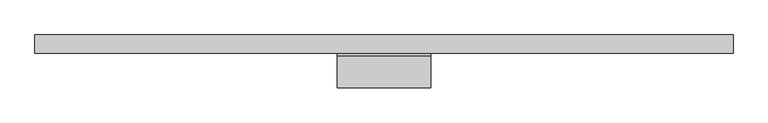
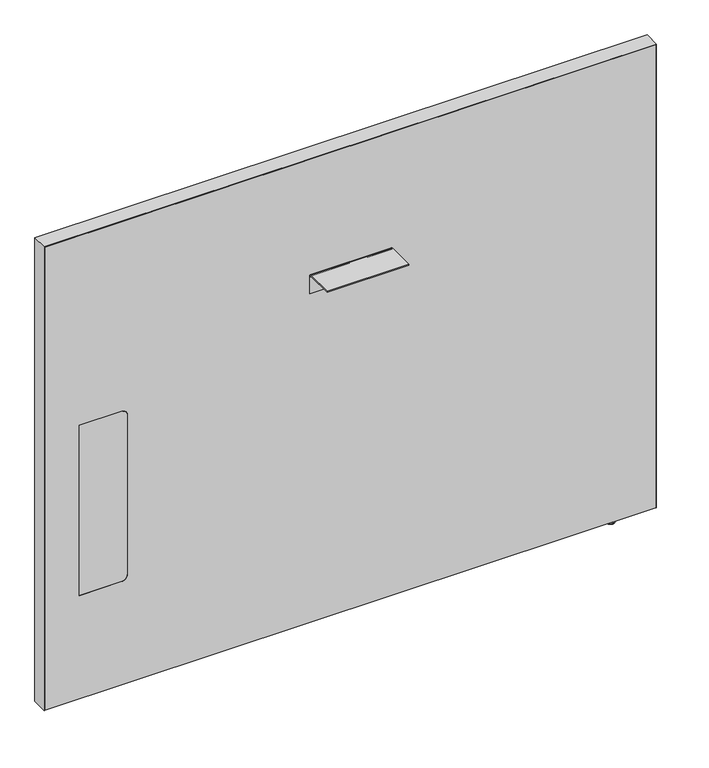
"""IFC4 building model written with IfcOpenShell, lengths in millimetres: furniture geometry, Steelcase - Answer Solution - Boundary Screen - Straight - Single Sided : 36H x 45W."""

from ifc_helpers import new_model, si_unit, point, frame, frame_2d, origin, place, context, project, spatial, polyline, circle_curve, ellipse_curve, trimmed, segment, composite_curve, outline, extrude, source, transform, mapped, element, save
from ifc_brep_helpers import plane_surface, cylinder_surface, revolved_surface, advanced_brep


def furniture_d07bc6ec(model_context):
    return source(origin(), model_context, "Body", "SolidModel", [
        extrude(outline(composite_curve([segment(polyline([(-86.8398151, 696.4680019), (-86.8398151, 698.5), (-34.9450855, 698.5)]), True, "CONTINUOUS"), segment(trimmed(circle_curve(frame_2d((-34.9450855, 693.2447477)), 5.2552523), [point((-34.9450855, 698.5))], [point((-29.6898332, 693.2447477))], False, "CARTESIAN"), True, "CONTINUOUS"), segment(polyline([(-29.6898332, 693.2447477), (-29.6898332, 660.4), (-31.7218162, 660.4), (-31.7218162, 693.0058743)]), True, "CONTINUOUS"), segment(trimmed(circle_curve(frame_2d((-35.1839438, 693.0058743)), 3.4621276), [point((-31.7218162, 693.0058743))], [point((-35.1839438, 696.4680019))], True, "CARTESIAN"), True, "CONTINUOUS"), segment(polyline([(-35.1839438, 696.4680019), (-86.8398151, 696.4680019)]), True, "CONTINUOUS")], self_intersect=False)), frame((-151.1808593, 0.0, 0.0), z_axis=(1.0, 0.0, 0.0), x_axis=(0.0, 1.0, 0.0)), (0.0, 0.0, 1.0), 152.4000969),
        advanced_brep(
        [(419.3286488, -23.7588726, 9.9059849), (419.3286488, -5.9309607, 9.9059849), (419.3286488, -14.8449166, 9.9059849), (419.3286488, -23.7588726, 2.9673238), (419.3286488, -5.9309607, 2.9673238), (419.3286488, -22.7915354, 2.9673238), (419.3286488, -6.8982978, 2.9673238), (419.3286488, -22.7915354, 1.6569081), (419.3286488, -6.8982978, 1.6569081), (419.3286488, -21.1346274, 0.0), (419.3286488, -8.5552059, 0.0), (419.3286488, -14.8449166, 0.0)],
        [
            (0, 1, circle_curve(frame((419.3286488, -14.8449166, 9.9059849), z_axis=(0.0, 0.0, 1.0), x_axis=(0.0, 1.0, 0.0)), 8.913956)),
            (1, 2),
            (2, 0),
            (1, 0, circle_curve(frame((419.3286488, -14.8449166, 9.9059849), z_axis=(0.0, 0.0, 1.0), x_axis=(0.0, 1.0, 0.0)), 8.913956)),
            (3, 4, circle_curve(frame((419.3286488, -14.8449166, 2.9673238), z_axis=(0.0, 0.0, 1.0), x_axis=(0.0, 1.0, 0.0)), 8.913956)),
            (4, 1),
            (0, 3),
            (4, 3, circle_curve(frame((419.3286488, -14.8449166, 2.9673238), z_axis=(0.0, 0.0, 1.0), x_axis=(0.0, 1.0, 0.0)), 8.913956)),
            (5, 6, circle_curve(frame((419.3286488, -14.8449166, 2.9673238), z_axis=(0.0, 0.0, 1.0), x_axis=(0.0, 1.0, 0.0)), 7.9466188)),
            (6, 4),
            (3, 5),
            (6, 5, circle_curve(frame((419.3286488, -14.8449166, 2.9673238), z_axis=(0.0, 0.0, 1.0), x_axis=(0.0, 1.0, 0.0)), 7.9466188)),
            (7, 8, circle_curve(frame((419.3286488, -14.8449166, 1.6569081), z_axis=(0.0, 0.0, 1.0), x_axis=(0.0, 1.0, 0.0)), 7.9466188)),
            (8, 6),
            (5, 7),
            (8, 7, circle_curve(frame((419.3286488, -14.8449166, 1.6569081), z_axis=(0.0, 0.0, 1.0), x_axis=(0.0, 1.0, 0.0)), 7.9466188)),
            (9, 10, circle_curve(frame((419.3286488, -14.8449166, 0.0), z_axis=(0.0, 0.0, 1.0), x_axis=(0.0, 1.0, 0.0)), 6.2897107)),
            (10, 8, circle_curve(frame((419.3286488, -8.5552059, 1.6569081), z_axis=(1.0, 0.0, 0.0), x_axis=(0.0, 1.0, 0.0)), 1.6569081)),
            (7, 9, circle_curve(frame((419.3286488, -21.1346274, 1.6569081), z_axis=(1.0, 0.0, 0.0), x_axis=(0.0, -1.0, 0.0)), 1.6569081)),
            (10, 9, circle_curve(frame((419.3286488, -14.8449166, 0.0), z_axis=(0.0, 0.0, 1.0), x_axis=(0.0, 1.0, 0.0)), 6.2897107)),
            (11, 10),
            (9, 11),
        ],
        [
            plane_surface(frame((419.3286488, -14.8449166, 9.9059849), z_axis=(0.0, 0.0, 1.0), x_axis=(0.0, 1.0, 0.0))),
            cylinder_surface(frame((419.3286488, -14.8449166, 9.9059849), z_axis=(0.0, 0.0, -1.0), x_axis=(0.0, 1.0, 0.0)), 8.913956),
            plane_surface(frame((419.3286488, -14.8449166, 2.9673238), z_axis=(0.0, 0.0, -1.0), x_axis=(0.0, 1.0, 0.0))),
            cylinder_surface(frame((419.3286488, -14.8449166, 9.9059849), z_axis=(0.0, 0.0, -1.0), x_axis=(0.0, 1.0, 0.0)), 7.9466188),
            revolved_surface(trimmed(ellipse_curve(frame((419.3286488, -8.5552059, 1.6569081), z_axis=(-1.0, 0.0, 0.0), x_axis=(0.0, 1.0, 0.0)), 1.6569081, 1.6569081), [point((419.3286488, -6.8982978, 1.6569081))], [point((419.3286488, -8.5552059, 0.0))], True, "CARTESIAN"), (419.3286488, -14.8449166, 9.9059849), (0.0, 0.0, -1.0)),
            plane_surface(frame((419.3286488, -14.8449166, 0.0), z_axis=(0.0, 0.0, -1.0), x_axis=(0.0, 1.0, 0.0))),
        ],
        [
            (0, [[1, 2, 3]]),
            (0, [[4, -3, -2]]),
            (1, [[5, 6, -1, 7]]),
            (1, [[8, -7, -4, -6]]),
            (2, [[9, 10, -5, 11]]),
            (2, [[12, -11, -8, -10]]),
            (3, [[13, 14, -9, 15]]),
            (3, [[16, -15, -12, -14]]),
            (4, [[17, 18, -13, 19]]),
            (4, [[20, -19, -16, -18]]),
            (5, [[21, -17, 22]]),
            (5, [[-22, -20, -21]]),
        ],
    ),
        advanced_brep(
        [(495.4780168, 0.0, 924.342118), (495.4780168, 0.0, 9.9059849), (-645.4902221, 0.0, 9.9059849), (-645.4902221, 0.0, 924.342118), (495.4780168, -29.6898332, 924.342118), (-645.4902221, -29.6898332, 924.342118), (-645.4902221, -29.6898332, 9.9059849), (495.4780168, -29.6898332, 9.9059849), (-501.1463873, -29.6898332, 549.6162029), (-490.9863873, -29.6898332, 539.4562029), (-490.9863873, -29.6898332, 223.9362137), (-501.1463873, -29.6898332, 213.7762137), (-580.800285, -29.6898332, 213.7762137), (-580.800285, -29.6898332, 549.6162029), (-580.800285, -29.0550397, 549.6162029), (-501.1463873, -29.0550397, 549.6162029), (-580.800285, -29.0550397, 213.7762137), (-501.1463873, -29.0550397, 213.7762137), (-490.9863873, -29.0550397, 223.9362137), (-490.9863873, -29.0550397, 539.4562029)],
        [
            (0, 1),
            (1, 2),
            (2, 3),
            (3, 0),
            (4, 5),
            (5, 6),
            (6, 7),
            (7, 4),
            (8, 9, circle_curve(frame((-501.1463873, -29.6898332, 539.4562029), z_axis=(0.0, 1.0, 0.0), x_axis=(0.0, 0.0, 1.0)), 10.16)),
            (9, 10),
            (10, 11, circle_curve(frame((-501.1463873, -29.6898332, 223.9362137), z_axis=(0.0, 1.0, 0.0), x_axis=(0.0, 0.0, 1.0)), 10.16)),
            (11, 12),
            (12, 13),
            (13, 8),
            (0, 4),
            (7, 1),
            (6, 2),
            (5, 3),
            (13, 14),
            (14, 15),
            (15, 8),
            (12, 16),
            (16, 14),
            (11, 17),
            (17, 16),
            (10, 18),
            (18, 17, circle_curve(frame((-501.1463873, -29.0550397, 223.9362137), z_axis=(0.0, 1.0, 0.0), x_axis=(0.0, 0.0, 1.0)), 10.16)),
            (9, 19),
            (19, 18),
            (15, 19, circle_curve(frame((-501.1463873, -29.0550397, 539.4562029), z_axis=(0.0, 1.0, 0.0), x_axis=(0.0, 0.0, 1.0)), 10.16)),
        ],
        [
            plane_surface(frame((495.4780168, 0.0, 924.342118), z_axis=(0.0, 1.0, 0.0), x_axis=(0.0, 0.0, -1.0))),
            plane_surface(frame((495.4780168, -29.6898332, 924.342118), z_axis=(0.0, -1.0, 0.0), x_axis=(0.0, 0.0, 1.0))),
            plane_surface(frame((495.4780168, 0.0, 924.342118), z_axis=(1.0, 0.0, 0.0), x_axis=(0.0, -1.0, 0.0))),
            plane_surface(frame((495.4780168, 0.0, 9.9059849), z_axis=(0.0, 0.0, -1.0), x_axis=(0.0, -1.0, 0.0))),
            plane_surface(frame((-645.4902221, 0.0, 9.9059849), z_axis=(-1.0, 0.0, 0.0), x_axis=(0.0, -1.0, 0.0))),
            plane_surface(frame((-645.4902221, 0.0, 924.342118), z_axis=(0.0, 0.0, 1.0), x_axis=(0.0, -1.0, 0.0))),
            plane_surface(frame((-501.1463873, 0.0, 549.6162029), z_axis=(0.0, 0.0, -1.0), x_axis=(0.0, -1.0, 0.0))),
            plane_surface(frame((-580.800285, 0.0, 549.6162029), z_axis=(1.0, 0.0, 0.0), x_axis=(0.0, -1.0, 0.0))),
            plane_surface(frame((-580.800285, 0.0, 213.7762137), z_axis=(0.0, 0.0, 1.0), x_axis=(0.0, -1.0, 0.0))),
            revolved_surface(polyline([(-501.1463873, -29.6898332, 234.0962137), (-501.1463873, -29.0550397, 234.0962137)]), (-501.1463873, -29.6898332, 223.9362137), (0.0, -1.0, 0.0)),
            plane_surface(frame((-490.9863873, 0.0, 223.9362137), z_axis=(-1.0, 0.0, 0.0), x_axis=(0.0, -1.0, 0.0))),
            revolved_surface(polyline([(-501.1463873, -29.6898332, 549.6162029), (-501.1463873, -29.0550397, 549.6162029)]), (-501.1463873, -29.6898332, 539.4562029), (0.0, -1.0, 0.0)),
            plane_surface(frame((-490.9863873, -29.0550397, 629.172953), z_axis=(0.0, -1.0, 0.0), x_axis=(0.0, 0.0, 1.0))),
        ],
        [
            (0, [[1, 2, 3, 4]]),
            (1, [[5, 6, 7, 8], [9, 10, 11, 12, 13, 14]]),
            (2, [[-1, 15, -8, 16]]),
            (3, [[-2, -16, -7, 17]]),
            (4, [[-3, -17, -6, 18]]),
            (5, [[-4, -18, -5, -15]]),
            (6, [[-14, 19, 20, 21]]),
            (7, [[-13, 22, 23, -19]]),
            (8, [[-12, 24, 25, -22]]),
            (9, [[-11, 26, 27, -24]]),
            (10, [[-10, 28, 29, -26]]),
            (11, [[-9, -21, 30, -28]]),
            (12, [[-20, -23, -25, -27, -29, -30]]),
        ],
    ),
        extrude(outline(composite_curve([segment(polyline([(549.6162029, -501.1463873), (549.6162029, -580.800285), (213.7762137, -580.800285), (213.7762137, -501.1463873)]), True, "CONTINUOUS"), segment(trimmed(circle_curve(frame_2d((223.9362137, -501.1463873)), 10.16), [point((213.7762137, -501.1463873))], [point((223.9362137, -490.9863873))], False, "CARTESIAN"), True, "CONTINUOUS"), segment(polyline([(223.9362137, -490.9863873), (539.4562029, -490.9863873)]), True, "CONTINUOUS"), segment(trimmed(circle_curve(frame_2d((539.4562029, -501.1463873)), 10.16), [point((539.4562029, -490.9863873))], [point((549.6162029, -501.1463873))], False, "CARTESIAN"), True, "CONTINUOUS")], self_intersect=False)), frame((0.0, -29.6898332, 0.0), z_axis=(0.0, 1.0, 0.0), x_axis=(0.0, 0.0, 1.0)), (0.0, 0.0, 1.0), 0.6347935),
        extrude(outline(polyline([(925.322, 496.5191891), (925.322, -646.4808109), (9.9059849, -646.4808109), (9.9059849, -645.4902221), (924.342118, -645.4902221), (924.342118, 495.4780168), (9.9059849, 495.4780168), (9.9059849, 496.5191891), (925.322, 496.5191891)])), frame((0.0, -29.6898332, 0.0), z_axis=(0.0, 1.0, 0.0), x_axis=(0.0, 0.0, 1.0)), (0.0, 0.0, 1.0), 29.6898332),
    ])


if __name__ == "__main__":
    model = new_model("IFC4")
    model_context = context("Model", 3, world=origin())
    ifc_project = project(units=[si_unit("LENGTHUNIT", "METRE", prefix="MILLI")], contexts=[model_context])
    site = spatial("IfcSite", under=ifc_project)
    building = spatial("IfcBuilding", under=site)
    placement = place(None, origin())
    furniture_shape = furniture_d07bc6ec(model_context)
    element("IfcFurniture", 1, ObjectType="Steelcase - Answer Solution - Boundary Screen - Straight - Single Sided : 36H x 45W", at=placement, inside=building, context=model_context, shape_type="MappedRepresentation", body=[
        mapped(furniture_shape, transform((0.0, 0.0, 0.0), x_axis=(1.0, 0.0, 0.0), y_axis=(0.0, 1.0, 0.0), z_axis=(0.0, 0.0, 1.0))),
    ])
    save(model, "model.ifc")
